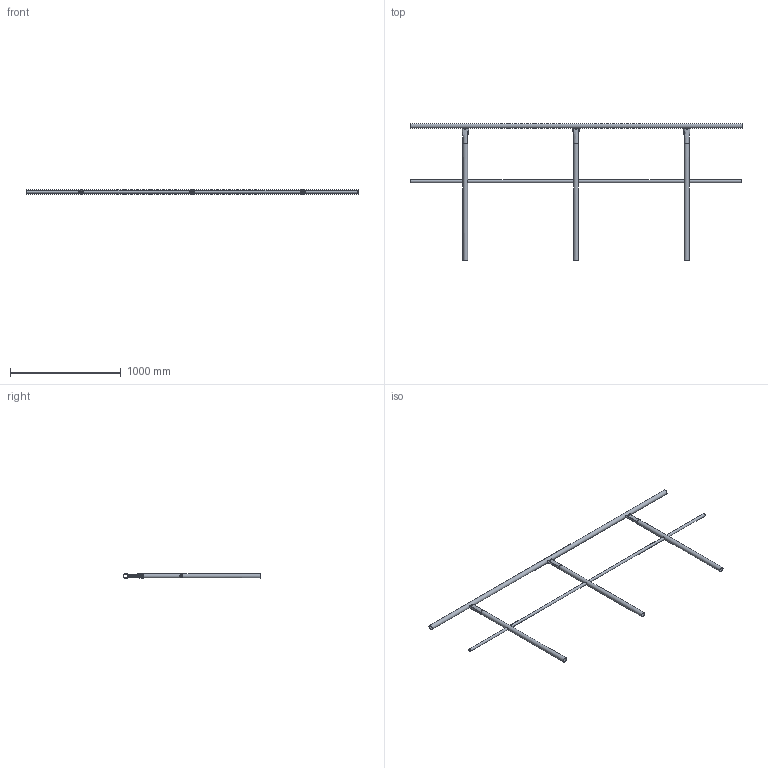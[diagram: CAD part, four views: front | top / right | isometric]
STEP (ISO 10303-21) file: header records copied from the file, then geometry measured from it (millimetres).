
FILE_DESCRIPTION((''),'2;1');
FILE_NAME('S:\Användarkataloger\AndreasA\Mina Inventor filer\Räcken\STEP\stormodul_ind_3000-1216.stp','2010-09-07T13:39:30',('AndreasA'),(''),'Autodesk Inventor 2011','Autodesk Inventor 2011','');
FILE_SCHEMA(('AUTOMOTIVE_DESIGN { 1 0 10303 214 1 1 1 1 }'));
Length unit declared in the file: millimetre
Products named in the file (5): stormodul_ind_3000-1216; handledare_stormodul_3000; stolpe_stormodul_1216; mellanliggare_stormodul_958; mellanliggare_stormodul_479
Assembly tree (8 placements, depth 2):
  stormodul_ind_3000-1216
    handledare_stormodul_3000
    stolpe_stormodul_1216  x3
    mellanliggare_stormodul_958  x2
    mellanliggare_stormodul_479  x2
Bounding box: 3000 x 1237.2 x 42.4 mm (x, y, z)
Volume: 2085880.1 mm3; surface area: 2089708.9 mm2
Topology: 8 solids, 8 shells, 62 faces, 168 edges, 122 vertices
Faces by surface type: bspline 24, cylinder 22, plane 16
Full cylindrical faces by diameter (mm): 10 x6, 21 x4, 25 x4, 38.4 x4, 42.4 x4
Entity records: 1624 total; most frequent: CARTESIAN_POINT 883, DIRECTION 132, ORIENTED_EDGE 104, AXIS2_PLACEMENT_3D 65, EDGE_CURVE 52, EDGE_LOOP 48, VERTEX_POINT 44, CIRCLE 34
